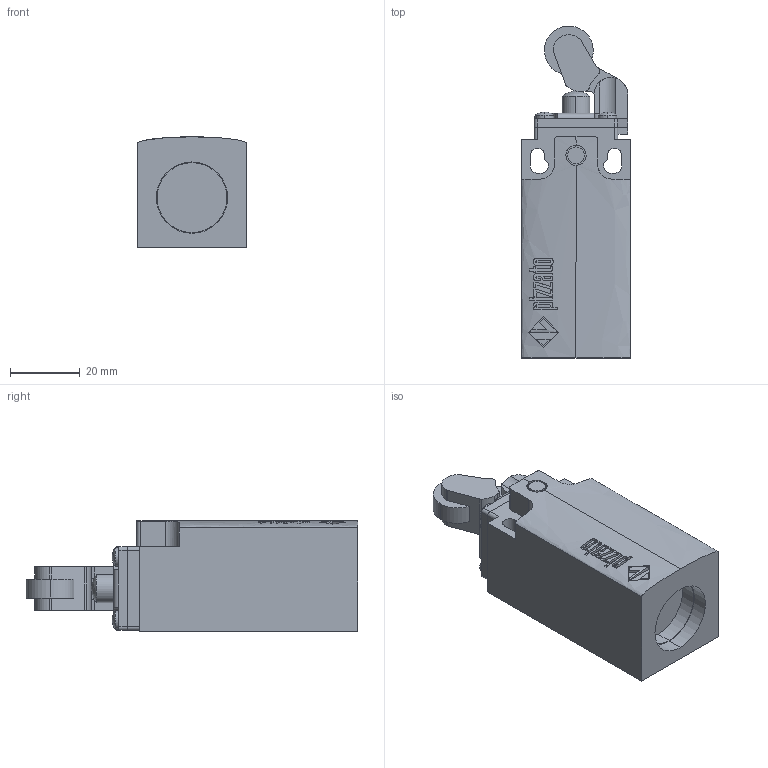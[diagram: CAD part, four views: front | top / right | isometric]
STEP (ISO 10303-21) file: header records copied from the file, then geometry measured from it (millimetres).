
FILE_DESCRIPTION (( 'STEP AP203' ), '1' );
FILE_NAME ('ZF_STEP_FM_x02.STEP', '2024-01-09T16:27:02', ( '' ), ( '' ), 'SwSTEP 2.0', 'SolidWorks 2020', '' );
FILE_SCHEMA (( 'CONFIG_CONTROL_DESIGN' ));
Length unit declared in the file: millimetre
Products named in the file (7): Pizzato_Supporto_TE02; Pizzato_Custodia_FM_3dweb; PIzzato_Leva_TE02_3407; Pizzato_Pulsante_TE01; ZF_STEP_FM_x02; ZF_STEP_VF_TE02
Assembly tree (6 placements, depth 3):
  ZF_STEP_FM_x02
    Pizzato_Custodia_FM_3dweb
      Pizzato_Custodia_FM_3dweb
    ZF_STEP_VF_TE02
      Pizzato_Supporto_TE02
      PIzzato_Leva_TE02_3407
      Pizzato_Pulsante_TE01
Bounding box: 31.2 x 95.04 x 31.6 mm (x, y, z)
Volume: 62629.9 mm3; surface area: 16542.5 mm2
Topology: 4 solids, 4 shells, 305 faces, 808 edges, 535 vertices
Faces by surface type: plane 174, cylinder 76, bspline 45, sphere 10
Entity records: 10745 total; most frequent: CARTESIAN_POINT 2744, ORIENTED_EDGE 1616, DIRECTION 1350, EDGE_CURVE 808, VERTEX_POINT 535, LINE 492, VECTOR 492, AXIS2_PLACEMENT_3D 429
